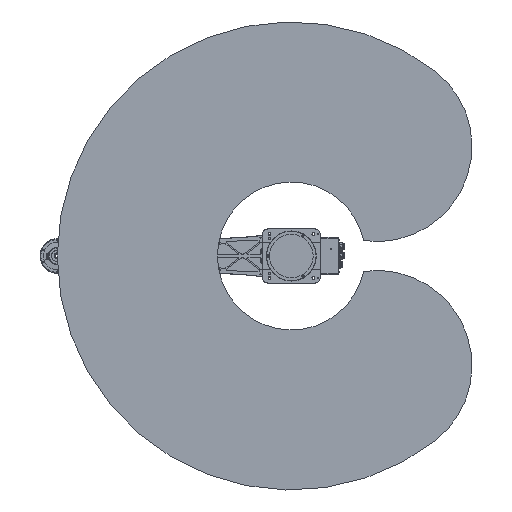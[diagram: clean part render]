
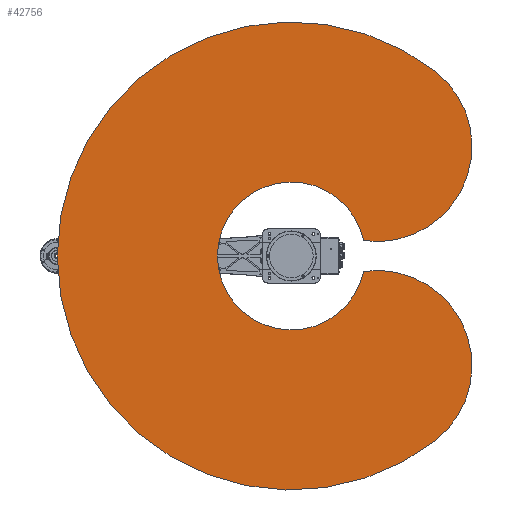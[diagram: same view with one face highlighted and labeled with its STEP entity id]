
A CAD part, front view. The second image highlights one B-rep face of the part: STEP entity #42756.
In plain terms, the highlighted planar face has unit normal (0, -1, 0) as drawn and (0, 1, 0) by its records, which use the part's own axes.
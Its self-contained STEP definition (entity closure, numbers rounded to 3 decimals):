
#2359 = CARTESIAN_POINT ( 'NONE',  ( 374.305, 170., 292.439 ) ) ;
#2945 = EDGE_CURVE ( 'NONE', #34817, #110646, #4801, .T. ) ;
#4801 = CIRCLE ( 'NONE', #143456, 252.715 ) ;
#12404 = DIRECTION ( 'NONE',  ( 0., 0., 1. ) ) ;
#14361 = AXIS2_PLACEMENT_3D ( 'NONE', #121273, #132753, #72939 ) ;
#28802 = EDGE_CURVE ( 'NONE', #135806, #128283, #63404, .T. ) ;
#34568 = DIRECTION ( 'NONE',  ( 0., 1., 0. ) ) ;
#34817 = VERTEX_POINT ( 'NONE', #53779 ) ;
#34864 = CIRCLE ( 'NONE', #79264, 800. ) ;
#35350 = CARTESIAN_POINT ( 'NONE',  ( 52.468, 170., 247.208 ) ) ;
#36548 = CARTESIAN_POINT ( 'NONE',  ( 0., 170., -800. ) ) ;
#38593 = CARTESIAN_POINT ( 'NONE',  ( 187.153, 170., 146.22 ) ) ;
#39436 = EDGE_CURVE ( 'NONE', #110646, #135806, #63324, .T. ) ;
#42747 = ORIENTED_EDGE ( 'NONE', *, *, #153026, .T. ) ;
#42756 = ADVANCED_FACE ( 'NONE', ( #50857 ), #85372, .T. ) ;
#44232 = VERTEX_POINT ( 'NONE', #155630 ) ;
#50857 = FACE_OUTER_BOUND ( 'NONE', #89653, .T. ) ;
#51511 = DIRECTION ( 'NONE',  ( 0., 1., 0. ) ) ;
#51662 = DIRECTION ( 'NONE',  ( 0., -1., 0. ) ) ;
#52385 = EDGE_CURVE ( 'NONE', #128283, #57610, #34864, .T. ) ;
#53779 = CARTESIAN_POINT ( 'NONE',  ( 0., 170., -252.715 ) ) ;
#57610 = VERTEX_POINT ( 'NONE', #106836 ) ;
#63324 = CIRCLE ( 'NONE', #136557, 325. ) ;
#63404 = CIRCLE ( 'NONE', #79098, 800. ) ;
#69142 = CARTESIAN_POINT ( 'NONE',  ( 0., 170., 0. ) ) ;
#69204 = ORIENTED_EDGE ( 'NONE', *, *, #80822, .T. ) ;
#70508 = DIRECTION ( 'NONE',  ( 0., -1., 0. ) ) ;
#72939 = DIRECTION ( 'NONE',  ( 0., 0., -1. ) ) ;
#79098 = AXIS2_PLACEMENT_3D ( 'NONE', #69142, #109263, #159179 ) ;
#79264 = AXIS2_PLACEMENT_3D ( 'NONE', #129004, #34568, #134473 ) ;
#79772 = CIRCLE ( 'NONE', #14361, 325. ) ;
#80822 = EDGE_CURVE ( 'NONE', #57610, #44232, #79772, .T. ) ;
#85372 = PLANE ( 'NONE',  #98110 ) ;
#89653 = EDGE_LOOP ( 'NONE', ( #160353, #155791, #153437, #69204, #42747, #109178 ) ) ;
#96138 = CARTESIAN_POINT ( 'NONE',  ( 630.409, 170., 492.529 ) ) ;
#97497 = CARTESIAN_POINT ( 'NONE',  ( 0., 170., 0. ) ) ;
#98110 = AXIS2_PLACEMENT_3D ( 'NONE', #38593, #135317, #12404 ) ;
#100056 = AXIS2_PLACEMENT_3D ( 'NONE', #97497, #70508, #122083 ) ;
#102444 = DIRECTION ( 'NONE',  ( 0., 0., 1. ) ) ;
#106836 = CARTESIAN_POINT ( 'NONE',  ( -630.409, 170., 492.529 ) ) ;
#109178 = ORIENTED_EDGE ( 'NONE', *, *, #2945, .T. ) ;
#109263 = DIRECTION ( 'NONE',  ( 0., 1., 0. ) ) ;
#110646 = VERTEX_POINT ( 'NONE', #35350 ) ;
#121273 = CARTESIAN_POINT ( 'NONE',  ( -374.305, 170., 292.439 ) ) ;
#122083 = DIRECTION ( 'NONE',  ( 0., 0., 1. ) ) ;
#125379 = CARTESIAN_POINT ( 'NONE',  ( 0., 170., 0. ) ) ;
#128283 = VERTEX_POINT ( 'NONE', #36548 ) ;
#129004 = CARTESIAN_POINT ( 'NONE',  ( 0., 170., 0. ) ) ;
#132753 = DIRECTION ( 'NONE',  ( 0., 1., 0. ) ) ;
#134473 = DIRECTION ( 'NONE',  ( 0., 0., 1. ) ) ;
#135317 = DIRECTION ( 'NONE',  ( 0., 1., 0. ) ) ;
#135806 = VERTEX_POINT ( 'NONE', #96138 ) ;
#136557 = AXIS2_PLACEMENT_3D ( 'NONE', #2359, #51511, #151395 ) ;
#143456 = AXIS2_PLACEMENT_3D ( 'NONE', #125379, #51662, #102444 ) ;
#151395 = DIRECTION ( 'NONE',  ( 0., 0., 1. ) ) ;
#153026 = EDGE_CURVE ( 'NONE', #44232, #34817, #157591, .T. ) ;
#153437 = ORIENTED_EDGE ( 'NONE', *, *, #52385, .T. ) ;
#155630 = CARTESIAN_POINT ( 'NONE',  ( -52.468, 170., 247.208 ) ) ;
#155791 = ORIENTED_EDGE ( 'NONE', *, *, #28802, .T. ) ;
#157591 = CIRCLE ( 'NONE', #100056, 252.715 ) ;
#159179 = DIRECTION ( 'NONE',  ( 0., 0., 1. ) ) ;
#160353 = ORIENTED_EDGE ( 'NONE', *, *, #39436, .T. ) ;
